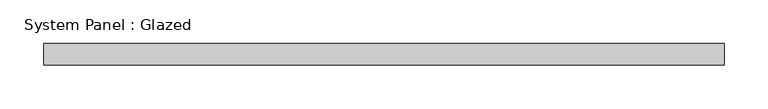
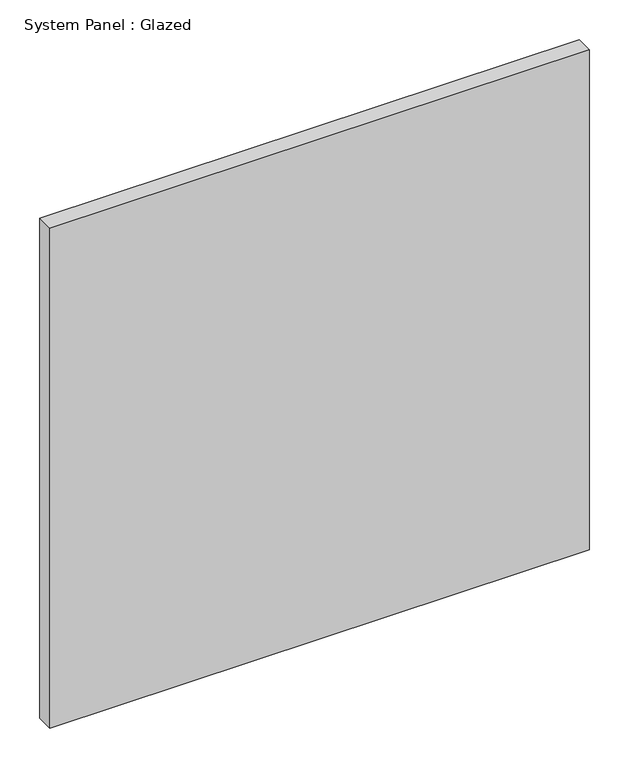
"""IFC4 building model written with IfcOpenShell, lengths in millimetres: plate geometry, System Panel : Glazed."""

from ifc_helpers import new_model, si_unit, origin, origin_with_axes, place, context, project, spatial, polyline, outline, extrude, source, transform, mapped, element, save


def system_panel_glazed_6dbe1d55(model_context):
    return source(origin(), model_context, "Body", "SweptSolid", [
        extrude(outline(polyline([(390.3574548, 24.5), (-390.3574548, 24.5), (-390.3574548, 49.5), (390.3574548, 49.5), (390.3574548, 24.5)])), origin_with_axes(), (0.0, 0.0, 1.0), 765.0),
    ])


if __name__ == "__main__":
    model = new_model("IFC4")
    model_context = context("Model", 3, world=origin())
    ifc_project = project(units=[si_unit("LENGTHUNIT", "METRE", prefix="MILLI")], contexts=[model_context])
    site = spatial("IfcSite", under=ifc_project)
    building = spatial("IfcBuilding", under=site)
    placement = place(None, origin())
    system_panel_glazed_shape = system_panel_glazed_6dbe1d55(model_context)
    element("IfcPlate", 1, ObjectType="System Panel : Glazed", at=placement, inside=building, context=model_context, shape_type="MappedRepresentation", body=[
        mapped(system_panel_glazed_shape, transform((0.0, 0.0, 0.0), x_axis=(1.0, 0.0, 0.0), y_axis=(0.0, 1.0, 0.0), z_axis=(0.0, 0.0, 1.0))),
    ])
    save(model, "model.ifc")
